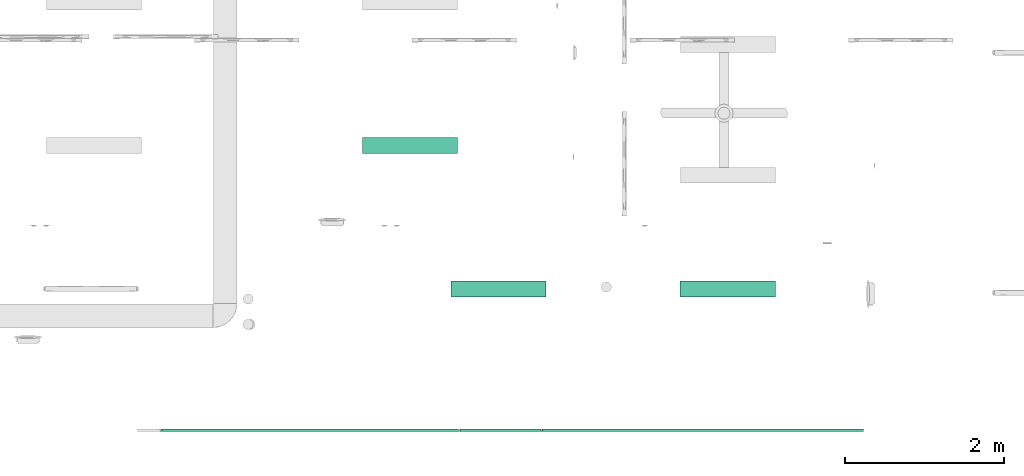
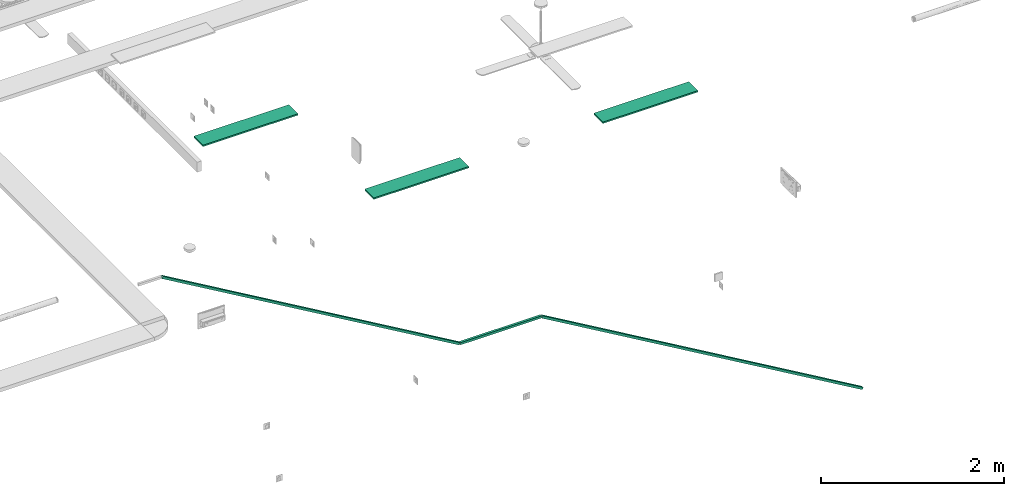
# One storey, part 21 of 153: 3 flow segments, 3 flow terminals.
"""IFC2X3 building model written with IfcOpenShell, lengths in metres."""

from ifc_helpers import new_model, entity, si_unit, converted_unit, derived_unit, direction, frame, frame_2d, origin, origin_2d_with_axis, place, context, subcontext, project, spatial, rectangle, extrude, source, transform, mapped, type_object, type_shapes, element, save


model = new_model("IFC2X3")

# Units and contexts
model_context = context("Model", 3, precision=1e-05, world=origin(), true_north=direction((6.12303176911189e-17, 1.0)))
body_context = subcontext(model_context, "Body", "Model", "MODEL_VIEW")
ifc_project = project(units=[si_unit("LENGTHUNIT", "METRE"), si_unit("AREAUNIT", "SQUARE_METRE"), si_unit("VOLUMEUNIT", "CUBIC_METRE"), converted_unit("PLANEANGLEUNIT", "DEGREE", entity("IfcRatioMeasure", 0.0174532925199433), si_unit("PLANEANGLEUNIT", "RADIAN"), dimensions=[0, 0, 0, 0, 0, 0, 0]), si_unit("MASSUNIT", "GRAM", prefix="KILO"), derived_unit("MASSDENSITYUNIT", [(si_unit("MASSUNIT", "GRAM", prefix="KILO"), 1), (si_unit("LENGTHUNIT", "METRE"), -3)]), si_unit("TIMEUNIT", "SECOND"), si_unit("FREQUENCYUNIT", "HERTZ"), si_unit("THERMODYNAMICTEMPERATUREUNIT", "DEGREE_CELSIUS"), derived_unit("THERMALTRANSMITTANCEUNIT", [(si_unit("MASSUNIT", "GRAM", prefix="KILO"), 1), (si_unit("THERMODYNAMICTEMPERATUREUNIT", "KELVIN"), -1), (si_unit("TIMEUNIT", "SECOND"), -3)]), derived_unit("VOLUMETRICFLOWRATEUNIT", [(si_unit("LENGTHUNIT", "METRE"), 3), (si_unit("TIMEUNIT", "SECOND"), -1)]), si_unit("ELECTRICCURRENTUNIT", "AMPERE"), si_unit("ELECTRICVOLTAGEUNIT", "VOLT"), si_unit("POWERUNIT", "WATT"), si_unit("FORCEUNIT", "NEWTON"), si_unit("ILLUMINANCEUNIT", "LUX"), si_unit("LUMINOUSFLUXUNIT", "LUMEN"), si_unit("LUMINOUSINTENSITYUNIT", "CANDELA"), derived_unit("USERDEFINED", [(si_unit("MASSUNIT", "GRAM", prefix="KILO"), -1), (si_unit("LENGTHUNIT", "METRE"), -2), (si_unit("TIMEUNIT", "SECOND"), 3), (si_unit("LUMINOUSFLUXUNIT", "LUMEN"), 1)]), derived_unit("LINEARVELOCITYUNIT", [(si_unit("LENGTHUNIT", "METRE"), 1), (si_unit("TIMEUNIT", "SECOND"), -1)]), si_unit("PRESSUREUNIT", "PASCAL"), derived_unit("USERDEFINED", [(si_unit("LENGTHUNIT", "METRE"), -2), (si_unit("MASSUNIT", "GRAM", prefix="KILO"), 1), (si_unit("TIMEUNIT", "SECOND"), -2)])], contexts=[model_context])

# Site, building, storey
site_placement = place(None, origin())
site = spatial("IfcSite", under=ifc_project, at=site_placement, Name="Default", CompositionType="ELEMENT")
building_placement = place(site_placement, origin())
building = spatial("IfcBuilding", under=site, at=building_placement, CompositionType="ELEMENT")
storey_placement = place(building_placement, frame((0.0, 0.0, -4.62)))
storey = spatial("IfcBuildingStorey", under=building, at=storey_placement, Name="S02", CompositionType="ELEMENT", Elevation=-4.62)

# Flow segments
cable_carrier_segment_type = type_object("IfcCableCarrierSegmentType", Name="Cable Tray with Fittings:Goulottes de câbles indéfini_Goulottes de câbles", PredefinedType="NOTDEFINED")
flow_segment_1_placement = place(storey_placement, origin())
element("IfcFlowSegment", 1, at=flow_segment_1_placement, inside=storey, type_object=cable_carrier_segment_type, Name="Cable Tray with Fittings:Goulottes de câbles indéfini_Goulottes de câbles", ObjectType="Cable Tray with Fittings:Goulottes de câbles indéfini_Goulottes de câbles", context=body_context, shape_type="SweptSolid", body=[
    extrude(rectangle(XDim=0.0300000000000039, YDim=0.0300000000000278, at=origin_2d_with_axis()), frame((61.1904832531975, -195.835320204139, 3.214608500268), z_axis=(0.862697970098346, 0.0, -0.505719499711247), x_axis=(0.505719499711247, 0.0, 0.862697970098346)), (0.0, 0.0, 1.0), 4.6945483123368),
])
flow_segment_2_placement = place(storey_placement, origin())
element("IfcFlowSegment", 2, at=flow_segment_2_placement, inside=storey, type_object=cable_carrier_segment_type, Name="Cable Tray with Fittings:Goulottes de câbles indéfini_Goulottes de câbles", ObjectType="Cable Tray with Fittings:Goulottes de câbles indéfini_Goulottes de câbles", context=body_context, shape_type="SweptSolid", body=[
    extrude(rectangle(XDim=1.02009662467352, YDim=0.0300000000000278, at=frame_2d((4.32986979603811e-15, 0.0), x_axis=(1.0, 0.0))), frame((60.6684173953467, -195.835320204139, 3.20287124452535), z_axis=(0.0, 0.0, 1.0), x_axis=(-1.0, 0.0, 0.0)), (0.0, 0.0, 1.0), 0.0300000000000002),
])
flow_segment_3_placement = place(storey_placement, origin())
element("IfcFlowSegment", 3, at=flow_segment_3_placement, inside=storey, type_object=cable_carrier_segment_type, Name="Cable Tray with Fittings:Goulottes de câbles indéfini_Goulottes de câbles", ObjectType="Cable Tray with Fittings:Goulottes de câbles indéfini_Goulottes de câbles", context=body_context, shape_type="SweptSolid", body=[
    extrude(rectangle(XDim=0.0300000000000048, YDim=0.0300000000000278, at=origin_2d_with_axis()), frame((56.3926693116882, -195.835320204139, 5.42156839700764), z_axis=(0.862697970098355, 0.0, -0.505719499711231), x_axis=(0.505719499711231, 0.0, 0.862697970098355)), (0.0, 0.0, 1.0), 4.35109662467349),
])

# Flow terminals
light_fixture_type = type_object("IfcLightFixtureType", Name="B_Réglete étanche", PredefinedType="NOTDEFINED")
shared_shape = source(origin(), body_context, "Body", "SweptSolid", [
    extrude(rectangle(XDim=0.199999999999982, YDim=1.2, at=origin_2d_with_axis()), frame((0.0, 0.0, 0.0), z_axis=(0.0, 0.0, 1.0), x_axis=(0.0, 1.0, 0.0)), (0.0, 0.0, 1.0), 0.02),
])
type_shapes(light_fixture_type, [shared_shape])
for number, where, z_axis, x_axis in (
    (4, (60.6447436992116, -194.050515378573, 4.175), (0.0, 0.0, -1.0), (1.0, 0.0, 0.0)),
    (5, (63.5377436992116, -194.050515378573, 4.175), (0.0, 0.0, -1.0), (1.0, 0.0, 0.0)),
    (6, (59.5296087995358, -192.243084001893, 4.175), (0.0, 0.0, -1.0), (-1.0, 0.0, 0.0)),
):
    element("IfcFlowTerminal", number, at=place(storey_placement, frame(where, z_axis=z_axis, x_axis=x_axis)), inside=storey, type_object=light_fixture_type, Name="II_PREF_Type B Réglette étanche:B_Réglete étanche", ObjectType="II_PREF_Type B Réglette étanche:B_Réglete étanche", context=body_context, shape_type="MappedRepresentation", body=[
        mapped(shared_shape, transform((0.0, 0.0, 0.0), scale=1.0)),
    ])

save(model, "model.ifc")
